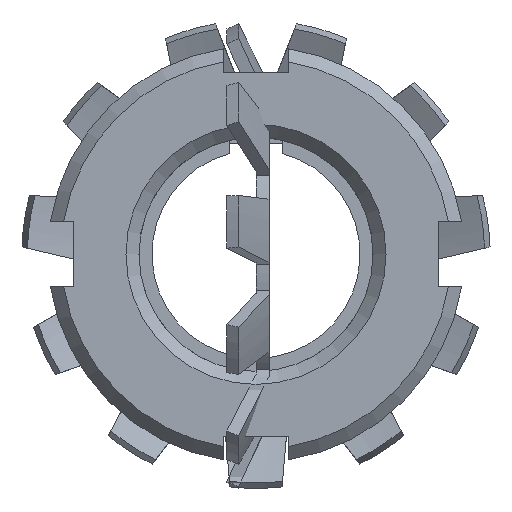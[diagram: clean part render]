
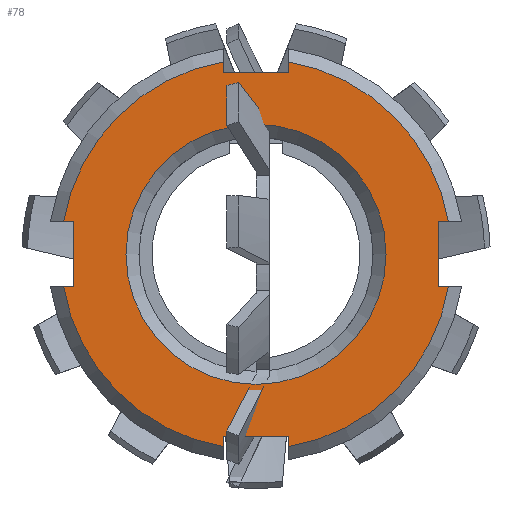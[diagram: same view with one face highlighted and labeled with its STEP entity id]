
A CAD part, front view. The second image highlights one B-rep face of the part: STEP entity #78.
In plain terms, the highlighted planar face has unit normal (0, -1, 0).
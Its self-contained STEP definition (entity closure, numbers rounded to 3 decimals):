
#78 = ADVANCED_FACE( '', ( #174, #175 ), #176, .F. );
#174 = FACE_BOUND( '', #304, .T. );
#175 = FACE_OUTER_BOUND( '', #305, .T. );
#176 = PLANE( '', #306 );
#304 = EDGE_LOOP( '', ( #497 ) );
#305 = EDGE_LOOP( '', ( #498, #499, #500, #501, #502, #503, #504, #505, #506, #507, #508, #509, #510, #511, #512, #513 ) );
#306 = AXIS2_PLACEMENT_3D( '', #514, #515, #516 );
#497 = ORIENTED_EDGE( '', *, *, #971, .F. );
#498 = ORIENTED_EDGE( '', *, *, #972, .F. );
#499 = ORIENTED_EDGE( '', *, *, #973, .T. );
#500 = ORIENTED_EDGE( '', *, *, #974, .T. );
#501 = ORIENTED_EDGE( '', *, *, #975, .T. );
#502 = ORIENTED_EDGE( '', *, *, #976, .F. );
#503 = ORIENTED_EDGE( '', *, *, #977, .T. );
#504 = ORIENTED_EDGE( '', *, *, #978, .T. );
#505 = ORIENTED_EDGE( '', *, *, #979, .T. );
#506 = ORIENTED_EDGE( '', *, *, #980, .F. );
#507 = ORIENTED_EDGE( '', *, *, #981, .T. );
#508 = ORIENTED_EDGE( '', *, *, #982, .T. );
#509 = ORIENTED_EDGE( '', *, *, #983, .T. );
#510 = ORIENTED_EDGE( '', *, *, #984, .F. );
#511 = ORIENTED_EDGE( '', *, *, #985, .T. );
#512 = ORIENTED_EDGE( '', *, *, #986, .T. );
#513 = ORIENTED_EDGE( '', *, *, #987, .T. );
#514 = CARTESIAN_POINT( '', ( 0., -9.5, 16. ) );
#515 = DIRECTION( '', ( 0., 1., 0. ) );
#516 = DIRECTION( '', ( 0., 0., 1. ) );
#971 = EDGE_CURVE( '', #1245, #1245, #1246, .T. );
#972 = EDGE_CURVE( '', #1247, #1248, #1249, .T. );
#973 = EDGE_CURVE( '', #1247, #1250, #1251, .T. );
#974 = EDGE_CURVE( '', #1250, #1252, #1253, .T. );
#975 = EDGE_CURVE( '', #1252, #1254, #1255, .F. );
#976 = EDGE_CURVE( '', #1256, #1254, #1257, .T. );
#977 = EDGE_CURVE( '', #1256, #1258, #1259, .T. );
#978 = EDGE_CURVE( '', #1258, #1260, #1261, .T. );
#979 = EDGE_CURVE( '', #1260, #1262, #1263, .F. );
#980 = EDGE_CURVE( '', #1264, #1262, #1265, .T. );
#981 = EDGE_CURVE( '', #1264, #1266, #1267, .T. );
#982 = EDGE_CURVE( '', #1266, #1268, #1269, .T. );
#983 = EDGE_CURVE( '', #1268, #1270, #1271, .F. );
#984 = EDGE_CURVE( '', #1272, #1270, #1273, .T. );
#985 = EDGE_CURVE( '', #1272, #1274, #1275, .T. );
#986 = EDGE_CURVE( '', #1274, #1276, #1277, .T. );
#987 = EDGE_CURVE( '', #1276, #1248, #1278, .F. );
#1245 = VERTEX_POINT( '', #2071 );
#1246 = CIRCLE( '', #2072, 10. );
#1247 = VERTEX_POINT( '', #2073 );
#1248 = VERTEX_POINT( '', #2074 );
#1249 = LINE( '', #2075, #2076 );
#1250 = VERTEX_POINT( '', #2077 );
#1251 = LINE( '', #2078, #2079 );
#1252 = VERTEX_POINT( '', #2080 );
#1253 = LINE( '', #2081, #2082 );
#1254 = VERTEX_POINT( '', #2083 );
#1255 = CIRCLE( '', #2084, 15. );
#1256 = VERTEX_POINT( '', #2085 );
#1257 = LINE( '', #2086, #2087 );
#1258 = VERTEX_POINT( '', #2088 );
#1259 = LINE( '', #2089, #2090 );
#1260 = VERTEX_POINT( '', #2091 );
#1261 = LINE( '', #2092, #2093 );
#1262 = VERTEX_POINT( '', #2094 );
#1263 = CIRCLE( '', #2095, 15. );
#1264 = VERTEX_POINT( '', #2096 );
#1265 = LINE( '', #2097, #2098 );
#1266 = VERTEX_POINT( '', #2099 );
#1267 = LINE( '', #2100, #2101 );
#1268 = VERTEX_POINT( '', #2102 );
#1269 = LINE( '', #2103, #2104 );
#1270 = VERTEX_POINT( '', #2105 );
#1271 = CIRCLE( '', #2106, 15. );
#1272 = VERTEX_POINT( '', #2107 );
#1273 = LINE( '', #2108, #2109 );
#1274 = VERTEX_POINT( '', #2110 );
#1275 = LINE( '', #2111, #2112 );
#1276 = VERTEX_POINT( '', #2113 );
#1277 = LINE( '', #2114, #2115 );
#1278 = CIRCLE( '', #2116, 15. );
#2071 = CARTESIAN_POINT( '', ( 0., -9.5, -10. ) );
#2072 = AXIS2_PLACEMENT_3D( '', #2620, #2621, #2622 );
#2073 = CARTESIAN_POINT( '', ( -14., -9.5, 2.5 ) );
#2074 = CARTESIAN_POINT( '', ( -14.79, -9.5, 2.5 ) );
#2075 = CARTESIAN_POINT( '', ( -16., -9.5, 2.5 ) );
#2076 = VECTOR( '', #2623, 1000. );
#2077 = CARTESIAN_POINT( '', ( -14., -9.5, -2.5 ) );
#2078 = CARTESIAN_POINT( '', ( -14., -9.5, 2.5 ) );
#2079 = VECTOR( '', #2624, 1000. );
#2080 = CARTESIAN_POINT( '', ( -14.79, -9.5, -2.5 ) );
#2081 = CARTESIAN_POINT( '', ( -16., -9.5, -2.5 ) );
#2082 = VECTOR( '', #2625, 1000. );
#2083 = CARTESIAN_POINT( '', ( -2.5, -9.5, -14.79 ) );
#2084 = AXIS2_PLACEMENT_3D( '', #2626, #2627, #2628 );
#2085 = CARTESIAN_POINT( '', ( -2.5, -9.5, -14. ) );
#2086 = CARTESIAN_POINT( '', ( -2.5, -9.5, -16. ) );
#2087 = VECTOR( '', #2629, 1000. );
#2088 = CARTESIAN_POINT( '', ( 2.5, -9.5, -14. ) );
#2089 = CARTESIAN_POINT( '', ( -2.5, -9.5, -14. ) );
#2090 = VECTOR( '', #2630, 1000. );
#2091 = CARTESIAN_POINT( '', ( 2.5, -9.5, -14.79 ) );
#2092 = CARTESIAN_POINT( '', ( 2.5, -9.5, -16. ) );
#2093 = VECTOR( '', #2631, 1000. );
#2094 = CARTESIAN_POINT( '', ( 14.79, -9.5, -2.5 ) );
#2095 = AXIS2_PLACEMENT_3D( '', #2632, #2633, #2634 );
#2096 = CARTESIAN_POINT( '', ( 14., -9.5, -2.5 ) );
#2097 = CARTESIAN_POINT( '', ( 16., -9.5, -2.5 ) );
#2098 = VECTOR( '', #2635, 1000. );
#2099 = CARTESIAN_POINT( '', ( 14., -9.5, 2.5 ) );
#2100 = CARTESIAN_POINT( '', ( 14., -9.5, -2.5 ) );
#2101 = VECTOR( '', #2636, 1000. );
#2102 = CARTESIAN_POINT( '', ( 14.79, -9.5, 2.5 ) );
#2103 = CARTESIAN_POINT( '', ( 16., -9.5, 2.5 ) );
#2104 = VECTOR( '', #2637, 1000. );
#2105 = CARTESIAN_POINT( '', ( 2.5, -9.5, 14.79 ) );
#2106 = AXIS2_PLACEMENT_3D( '', #2638, #2639, #2640 );
#2107 = CARTESIAN_POINT( '', ( 2.5, -9.5, 14. ) );
#2108 = CARTESIAN_POINT( '', ( 2.5, -9.5, 16. ) );
#2109 = VECTOR( '', #2641, 1000. );
#2110 = CARTESIAN_POINT( '', ( -2.5, -9.5, 14. ) );
#2111 = CARTESIAN_POINT( '', ( 2.5, -9.5, 14. ) );
#2112 = VECTOR( '', #2642, 1000. );
#2113 = CARTESIAN_POINT( '', ( -2.5, -9.5, 14.79 ) );
#2114 = CARTESIAN_POINT( '', ( -2.5, -9.5, 16. ) );
#2115 = VECTOR( '', #2643, 1000. );
#2116 = AXIS2_PLACEMENT_3D( '', #2644, #2645, #2646 );
#2620 = CARTESIAN_POINT( '', ( 0., -9.5, 0. ) );
#2621 = DIRECTION( '', ( 0., -1., 0. ) );
#2622 = DIRECTION( '', ( 0., 0., -1. ) );
#2623 = DIRECTION( '', ( -1., 0., 0. ) );
#2624 = DIRECTION( '', ( 0., 0., -1. ) );
#2625 = DIRECTION( '', ( -1., 0., 0. ) );
#2626 = CARTESIAN_POINT( '', ( 0., -9.5, 0. ) );
#2627 = DIRECTION( '', ( 0., 1., 0. ) );
#2628 = DIRECTION( '', ( 0., 0., 1. ) );
#2629 = DIRECTION( '', ( 0., 0., -1. ) );
#2630 = DIRECTION( '', ( 1., 0., 0. ) );
#2631 = DIRECTION( '', ( 0., 0., -1. ) );
#2632 = CARTESIAN_POINT( '', ( 0., -9.5, 0. ) );
#2633 = DIRECTION( '', ( 0., 1., 0. ) );
#2634 = DIRECTION( '', ( 0., 0., 1. ) );
#2635 = DIRECTION( '', ( 1., 0., 0. ) );
#2636 = DIRECTION( '', ( 0., 0., 1. ) );
#2637 = DIRECTION( '', ( 1., 0., 0. ) );
#2638 = CARTESIAN_POINT( '', ( 0., -9.5, 0. ) );
#2639 = DIRECTION( '', ( 0., 1., 0. ) );
#2640 = DIRECTION( '', ( 0., 0., 1. ) );
#2641 = DIRECTION( '', ( 0., 0., 1. ) );
#2642 = DIRECTION( '', ( -1., 0., 0. ) );
#2643 = DIRECTION( '', ( 0., 0., 1. ) );
#2644 = CARTESIAN_POINT( '', ( 0., -9.5, 0. ) );
#2645 = DIRECTION( '', ( 0., 1., 0. ) );
#2646 = DIRECTION( '', ( 0., 0., 1. ) );
